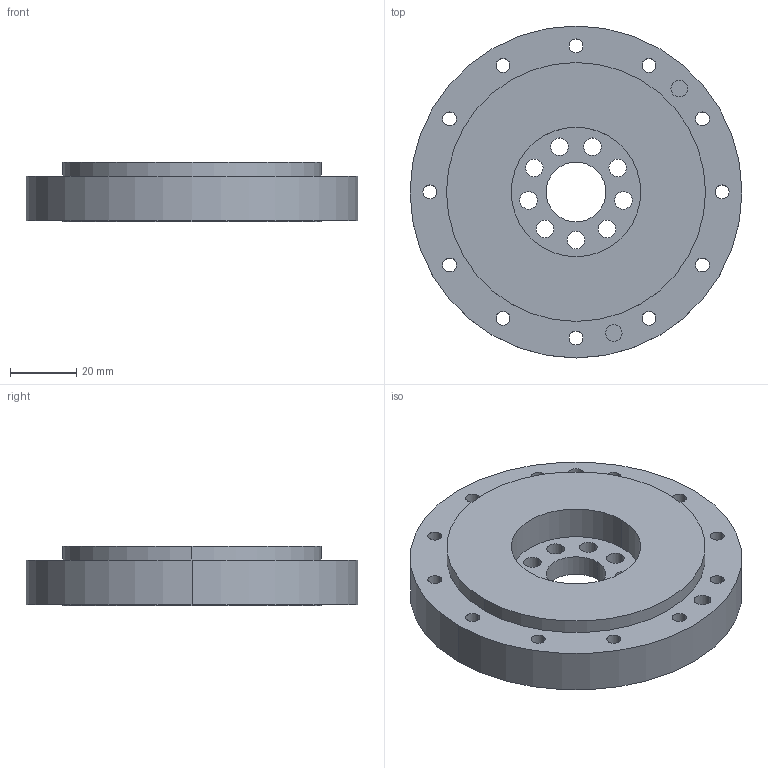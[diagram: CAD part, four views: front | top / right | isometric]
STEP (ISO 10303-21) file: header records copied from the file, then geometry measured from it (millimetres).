
FILE_DESCRIPTION (( 'STEP AP214' ), '1' );
FILE_NAME ('ST_25_comb_dummy.STEP', '2023-09-07T11:55:03', ( '' ), ( '' ), 'SwSTEP 2.0', 'SolidWorks 2021', '' );
FILE_SCHEMA (( 'AUTOMOTIVE_DESIGN' ));
Length unit declared in the file: millimetre
Products named in the file (1): ST_25_comb_dummy
Bounding box: 100 x 100 x 18 mm (x, y, z)
Volume: 107957.3 mm3; surface area: 24989.5 mm2
Topology: 1 solids, 1 shells, 72 faces, 186 edges, 124 vertices
Faces by surface type: cylinder 62, plane 10
Entity records: 2660 total; most frequent: DIRECTION 456, CARTESIAN_POINT 383, ORIENTED_EDGE 372, AXIS2_PLACEMENT_3D 197, EDGE_CURVE 186, VERTEX_POINT 124, EDGE_LOOP 124, CIRCLE 124
